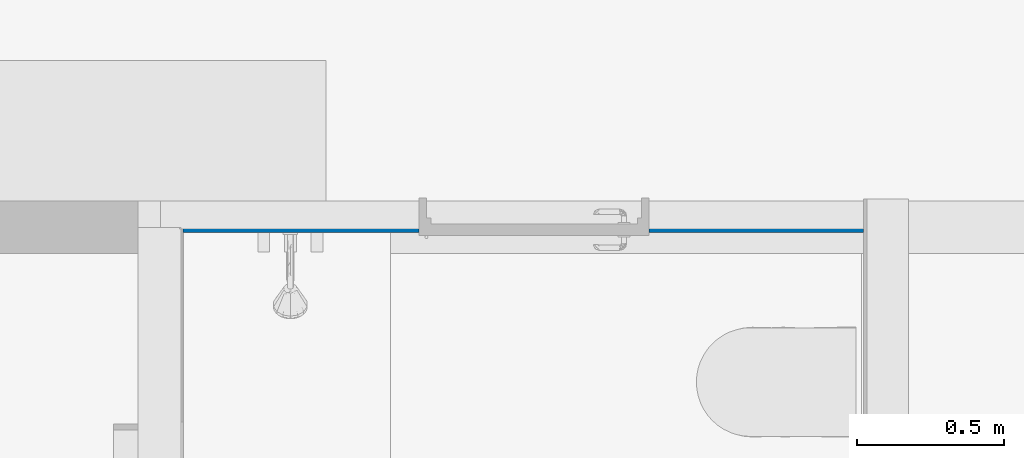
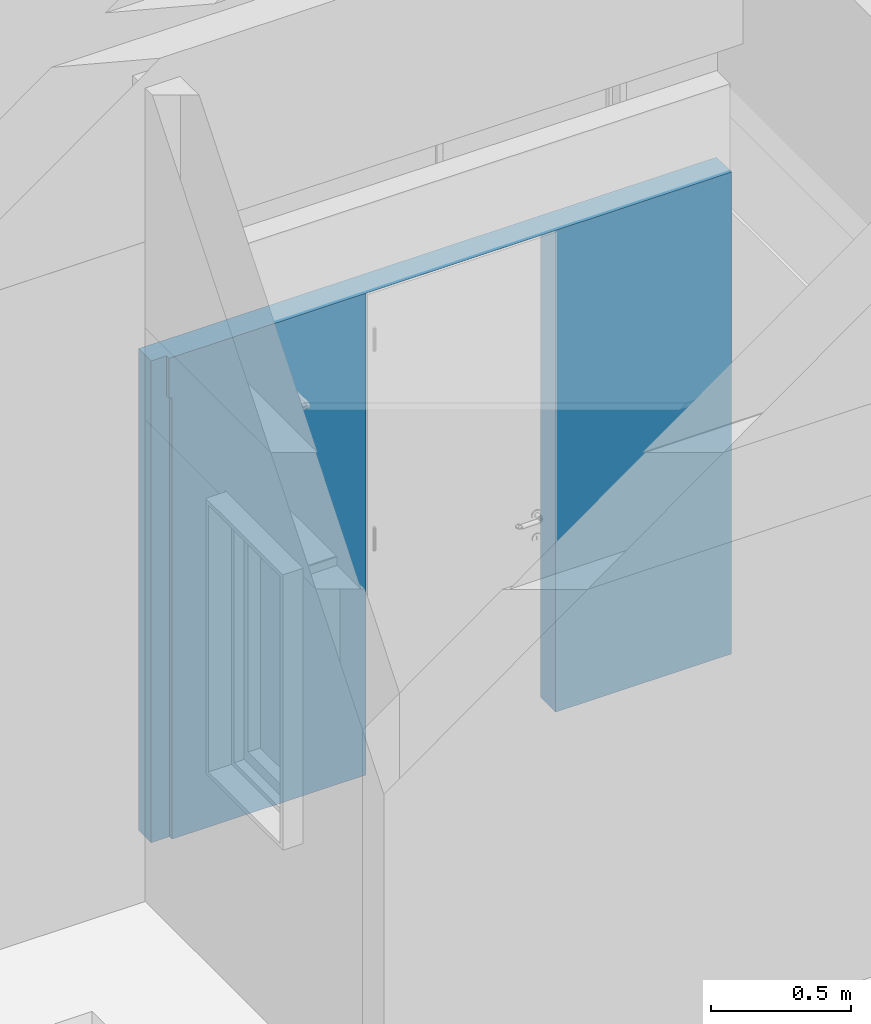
# One storey, part 5 of 10: 1 wall, 1 opening.
"""IFC2X3 building model written with IfcOpenShell, lengths in metres."""

from ifc_helpers import new_model, entity, si_unit, converted_unit, derived_unit, direction, frame, frame_2d, origin, place, context, subcontext, project, spatial, rectangle, extrude, faceted_brep, material, material_list, layer, layer_set, type_object, element, save


model = new_model("IFC2X3")

# Units and contexts
model_context = context("Model", 3, precision=1e-05, world=origin(), true_north=direction((6.12303176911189e-17, 1.0)))
body_context = subcontext(model_context, "Body", "Model", "MODEL_VIEW")
ifc_project = project(units=[si_unit("LENGTHUNIT", "METRE"), si_unit("AREAUNIT", "SQUARE_METRE"), si_unit("VOLUMEUNIT", "CUBIC_METRE"), converted_unit("PLANEANGLEUNIT", "DEGREE", entity("IfcRatioMeasure", 0.0174532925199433), si_unit("PLANEANGLEUNIT", "RADIAN"), dimensions=[0, 0, 0, 0, 0, 0, 0]), si_unit("MASSUNIT", "GRAM", prefix="KILO"), derived_unit("MASSDENSITYUNIT", [(si_unit("MASSUNIT", "GRAM", prefix="KILO"), 1), (si_unit("LENGTHUNIT", "METRE"), -3)]), si_unit("TIMEUNIT", "SECOND"), si_unit("FREQUENCYUNIT", "HERTZ"), si_unit("THERMODYNAMICTEMPERATUREUNIT", "DEGREE_CELSIUS"), derived_unit("THERMALTRANSMITTANCEUNIT", [(si_unit("MASSUNIT", "GRAM", prefix="KILO"), 1), (si_unit("THERMODYNAMICTEMPERATUREUNIT", "KELVIN"), -1), (si_unit("TIMEUNIT", "SECOND"), -3)]), derived_unit("VOLUMETRICFLOWRATEUNIT", [(si_unit("LENGTHUNIT", "METRE"), 3), (si_unit("TIMEUNIT", "SECOND"), -1)]), si_unit("ELECTRICCURRENTUNIT", "AMPERE"), si_unit("ELECTRICVOLTAGEUNIT", "VOLT"), si_unit("POWERUNIT", "WATT"), si_unit("FORCEUNIT", "NEWTON", prefix="KILO"), si_unit("ILLUMINANCEUNIT", "LUX"), si_unit("LUMINOUSFLUXUNIT", "LUMEN"), si_unit("LUMINOUSINTENSITYUNIT", "CANDELA"), derived_unit("USERDEFINED", [(si_unit("MASSUNIT", "GRAM", prefix="KILO"), -1), (si_unit("LENGTHUNIT", "METRE"), -2), (si_unit("TIMEUNIT", "SECOND"), 3), (si_unit("LUMINOUSFLUXUNIT", "LUMEN"), 1)]), derived_unit("LINEARVELOCITYUNIT", [(si_unit("LENGTHUNIT", "METRE"), 1), (si_unit("TIMEUNIT", "SECOND"), -1)]), si_unit("PRESSUREUNIT", "PASCAL"), derived_unit("USERDEFINED", [(si_unit("LENGTHUNIT", "METRE"), -2), (si_unit("MASSUNIT", "GRAM", prefix="KILO"), 1), (si_unit("TIMEUNIT", "SECOND"), -2)])], contexts=[model_context])

# Site, building, storey
site_placement = place(None, origin())
site = spatial("IfcSite", under=ifc_project, at=site_placement, Name="Surface", CompositionType="ELEMENT")
building_placement = place(site_placement, origin())
building = spatial("IfcBuilding", under=site, at=building_placement, CompositionType="ELEMENT")
storey_placement = place(building_placement, origin())
storey = spatial("IfcBuildingStorey", under=building, at=storey_placement, Name="Nivel 0.0", CompositionType="ELEMENT", Elevation=0.0)

# Wall, opening
ifc_material_1 = material(Name="Placa roca de Yeso 12,5mm")
ifc_material_2 = material(Name="Bastidor metálico")
ifc_material_3 = material(Name="Revestimiento Cerámico muro")
ifc_material_list = material_list([ifc_material_1, ifc_material_2, ifc_material_1, ifc_material_3])
ifc_layer_1 = layer(ifc_material_1, 0.0125)
ifc_layer_2 = layer(ifc_material_2, 0.07)
ifc_layer_3 = layer(ifc_material_1, 0.0125)
ifc_layer_4 = layer(ifc_material_3, 0.0125)
ifc_layer_set = layer_set([ifc_layer_1, ifc_layer_2, ifc_layer_3, ifc_layer_4], Name="Basic Wall:Pi-SF-051")
wall_type = type_object("IfcWallType", Name="Basic Wall:Pi-SF-051", PredefinedType="STANDARD", material=ifc_layer_set)
wall_placement = place(storey_placement, frame((-6.97601368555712, -1.68779870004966, 0.0)))
wall = element("IfcWall", 1, at=wall_placement, inside=storey, type_object=wall_type, material=ifc_material_list, Name="Basic Wall:Pi-SF-051", ObjectType="Basic Wall:Pi-SF-051", context=body_context, shape_type="Brep", body=[
    faceted_brep([(2.38270171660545, -0.05375, 0.0), (2.38270171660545, -0.05375, 2.1), (0.0640000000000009, -0.05375, 2.1), (0.0640000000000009, -0.05375, 1.925), (0.0760000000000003, -0.05375, 1.925), (0.0760000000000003, -0.05375, 0.0), (0.876166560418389, -0.0537500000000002, 0.0), (0.87616656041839, -0.0537500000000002, 2.09918361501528), (1.65616656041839, -0.05375, 2.09918361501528), (1.65616656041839, -0.05375, 0.0), (2.38270171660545, 0.05375, 2.1), (2.38270171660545, 0.05375, 0.0), (1.65616656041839, 0.05375, 0.0), (1.65616656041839, 0.05375, 2.09918361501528), (0.876166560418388, 0.0537499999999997, 2.09918361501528), (0.876166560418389, 0.0537499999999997, 0.0), (0.0, 0.05375, 0.0), (0.0, 0.05375, 2.1), (0.0760000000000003, -0.0357499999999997, 0.0), (0.0, -0.03575, 0.0), (2.38270171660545, -0.0412500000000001, 2.1), (0.0, -0.0357499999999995, 2.1), (0.0640000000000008, -0.0357499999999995, 2.1), (0.0640000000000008, -0.0412500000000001, 2.1), (0.0760000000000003, -0.0357499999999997, 1.925), (0.0640000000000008, -0.0357499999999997, 1.925)], [[[0, 1, 2, 3, 4, 5, 6, 7, 8, 9]], [[10, 11, 12, 13, 14, 15, 16, 17]], [[16, 15, 6, 5, 18, 19]], [[1, 0, 11, 10, 20]], [[10, 17, 21, 22, 23, 2, 1, 20]], [[17, 16, 19, 21]], [[8, 13, 12, 9]], [[13, 8, 7, 14]], [[14, 7, 6, 15]], [[5, 4, 24, 18]], [[24, 4, 3, 25]], [[18, 24, 25, 22, 21, 19]], [[22, 25, 3, 2, 23]], [[11, 0, 9, 12]]]),
])
opening_placement = place(wall_placement, frame((1.65616656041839, 0.0537499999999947, -0.000816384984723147)))
element("IfcOpeningElement", 2, at=opening_placement, cuts=wall, Name="Puerta Interior:P3:1", ObjectType="Opening", context=body_context, shape_type="SweptSolid", body=[
    extrude(rectangle(XDim=2.1, YDim=0.78, at=frame_2d((1.05, 0.39), x_axis=(1.0, 0.0))), frame((0.0, 0.0, 0.0), z_axis=(0.0, -1.0, 0.0), x_axis=(0.0, 0.0, 1.0)), (0.0, 0.0, 1.0), 0.1075),
])

save(model, "model.ifc")
